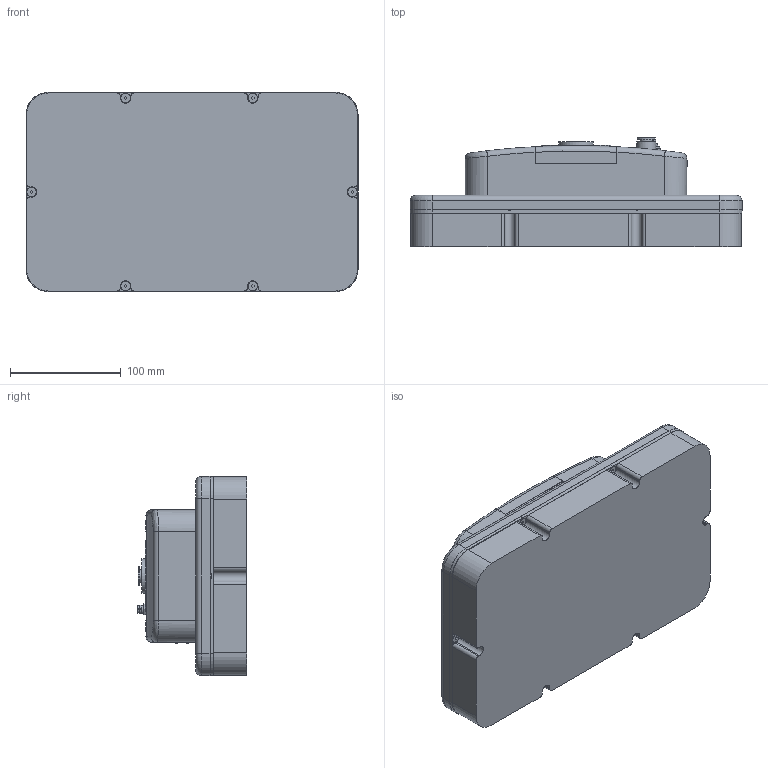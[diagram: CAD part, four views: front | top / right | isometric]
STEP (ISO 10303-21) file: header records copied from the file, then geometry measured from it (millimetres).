
FILE_DESCRIPTION(/* description */ ('STEP AP242','CAx-IF Rec.Pracs.---Representation and Presentation of Product Manufacturing Information (PMI)---4.0---2014-10-13','CAx-IF Rec.Pracs.---3D Tessellated Geometry---0.4---2014-09-14','2;1'),/* implementation_level */ '2;1');
FILE_NAME(/* name */ 'ZGS011PK-300180BS3-X1C10()',/* time_stamp */ '2026-03-09T13:36:07+01:00',/* author */ ('License CC BY-ND 4.0'),/* organization */ ('CADENAS'),/* preprocessor_version */ 'ST-DEVELOPER v20',/* originating_system */ 'PARTsolutions',/* authorisation */ ' ');
FILE_SCHEMA (('AP242_MANAGED_MODEL_BASED_3D_ENGINEERING_MIM_LF { 1 0 10303 442 1 1 4 }'));
Length unit declared in the file: millimetre
Products named in the file (6): ZGS011PK-300180BS3-X1C10(); ZGS011PK-300180B-C10_BODY; ZGS-200_300_TOOL_PLATE; ZGS-200_300_MAIN_PLATE; M6x16; ZGS-200_300_TOOL_COVER
Assembly tree (9 placements, depth 2):
  ZGS011PK-300180BS3-X1C10()
    ZGS011PK-300180B-C10_BODY
    ZGS-200_300_TOOL_PLATE
    ZGS-200_300_MAIN_PLATE
    M6x16  x4
    ZGS-200_300_TOOL_COVER  x2
Bounding box: 300 x 98.6 x 180 mm (x, y, z)
Volume: 3388709.7 mm3; surface area: 218190.5 mm2
Topology: 9 solids, 9 shells, 590 faces, 1440 edges, 940 vertices
Faces by surface type: plane 366, cylinder 168, cone 32, torus 18, bspline 4, sphere 2
Full cylindrical faces by diameter (mm): 0.6 x8, 4.134 x4, 4.917 x4, 5 x4, 5.94 x1, 6 x4, 6.6 x8, 6.9 x1, 8.5 x2, 8.56 x6, 8.6 x6, 9 x2, 10 x5, 11.1 x1, 12.5 x4, 14 x1, 15.5 x1, 16 x1, 16.5 x1, 17 x1, 31.5 x2
Entity records: 14826 total; most frequent: CARTESIAN_POINT 2808, DIRECTION 2490, ORIENTED_EDGE 2290, EDGE_CURVE 1145, AXIS2_PLACEMENT_3D 864, VERTEX_POINT 797, LINE 762, VECTOR 762
